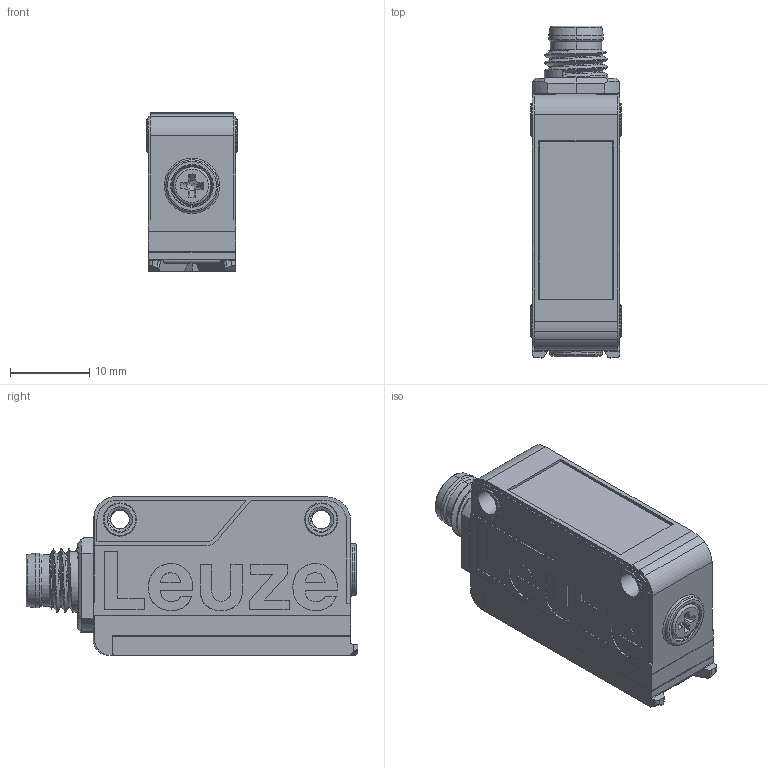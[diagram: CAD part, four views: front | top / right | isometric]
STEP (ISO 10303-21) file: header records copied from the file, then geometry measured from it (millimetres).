
FILE_DESCRIPTION(/* description */ (''),/* implementation_level */ '2;1');
FILE_NAME(/* name */ '3DCAD_HT5B_M8.stp',/* time_stamp */ '2022-05-12T14:54:15+02:00',/* author */ ('CC2'),/* organization */ ('Leuze electronic'),/* preprocessor_version */ 'ST-DEVELOPER v16',/* originating_system */ 'SIEMENS PLM Software NX 11.0',/* authorisation */ '');
FILE_SCHEMA (('AUTOMOTIVE_DESIGN { 1 0 10303 214 3 1 1 1 }'));
Length unit declared in the file: millimetre
Products named in the file (1): 19-103443_00_1-3DCAD_HT5B_M8
Bounding box: 11.4 x 41.88 x 20.05 mm (x, y, z)
Volume: 7176.3 mm3; surface area: 3751.6 mm2
Topology: 1 solids, 1 shells, 384 faces, 1021 edges, 669 vertices
Faces by surface type: plane 212, cylinder 69, extrusion 52, cone 28, bspline 18, torus 5
Full cylindrical faces by diameter (mm): 1 x4, 3.2 x4, 4.2 x4, 5.8 x1, 8 x3
Entity records: 17557 total; most frequent: CARTESIAN_POINT 8188, ORIENTED_EDGE 1926, DIRECTION 1631, EDGE_CURVE 963, VECTOR 661, VERTEX_POINT 650, LINE 609, AXIS2_PLACEMENT_3D 485
